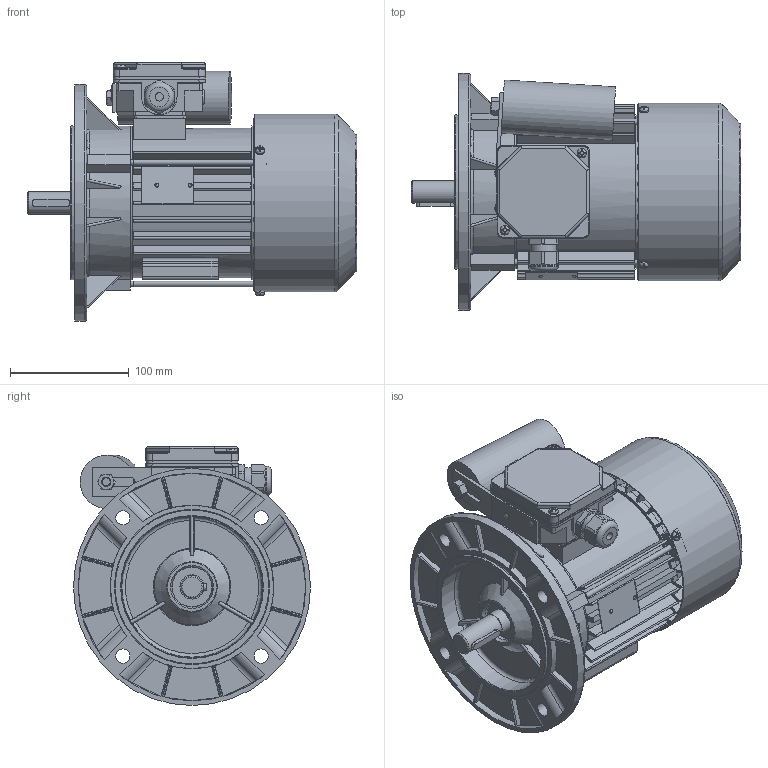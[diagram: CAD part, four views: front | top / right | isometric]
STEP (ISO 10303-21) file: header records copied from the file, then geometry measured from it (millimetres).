
FILE_DESCRIPTION( ( 'Unknown' ), '1' );
FILE_NAME( 'G:/Poczta Tk-1/STP/w.m.80/SEh80/SEKh80-.B.stp', 'Unknown', ( 'K. Szlosek' ), ( 'BESEL S.A.' ), 'PSStep 17.0.49', 'Unknown', ' ' );
FILE_SCHEMA( ( 'AUTOMOTIVE_DESIGN { 1 0 10303 214 1 1 1 1 }' ) );
Length unit declared in the file: millimetre
Products named in the file (33): Assem1; K1-1257 Kadłub S(E,M)h80-A i B; Kondensator zb 25-31,5uF Comar; K3-2964 Osłona przewietrznika Sh80,90; K2-0860 Pokrywka skrzynki zaciskowej; K4-2320 Uszczelka nr 1 Sh71,80; K3-4616 wał standard Sh80-B; K3-6857 Tarcza łożyskowa P S(E,M)h80-B,D; K1-1258  zmiana Tarcza kołnierzowa B5 SKh80-..; Wkręt samogwintujący M4x8; Wpust A6x6x32; K2-1131 Podstawa skrzynki zaciskowej jednofazowa; K4-2820 Uszczelka nr 2 Sh71,80; Wkręt samogwintujący M4x16; K4-0898 Tulejka uszczelniająca; nakrętka M8; Nit 4x12 po skróceniu; Nitokołek A 2x6; K3-4025 Przewietrznik Sg,h80; K4-2999 Uchwyt kondensatora; Dławnica M20x1,5; Tabliczka znamionowa 32x44; Łożysko 6204; Śruba ściągająca E_M5x130
Assembly tree (49 placements, depth 2):
  Assem1
    K1-1257 Kadłub S(E,M)h80-A i B
    Kondensator zb 25-31,5uF Comar
    K3-2964 Osłona przewietrznika Sh80,90
    K2-0860 Pokrywka skrzynki zaciskowej
    K4-2320 Uszczelka nr 1 Sh71,80
    K3-4616 wał standard Sh80-B
    K3-6857 Tarcza łożyskowa P S(E,M)h80-B,D
    K1-1258  zmiana Tarcza kołnierzowa B5 SKh80-..
    Wkręt samogwintujący M4x8  x3
    Wpust A6x6x32
    K2-1131 Podstawa skrzynki zaciskowej jednofazowa
    K4-2820 Uszczelka nr 2 Sh71,80
    Wkręt samogwintujący M4x16  x2
    K4-0898 Tulejka uszczelniająca
    nakrętka M8
    Nit 4x12 po skróceniu  x2
    Nitokołek A 2x6  x2
    K3-4025 Przewietrznik Sg,h80
    K4-2999 Uchwyt kondensatora
    Dławnica M20x1,5
    Tabliczka znamionowa 32x44
    Łożysko 6204  x2
    Łożysko 6204  x2
    Łożysko 6204  x2
    Łożysko 6204  x2
    Łożysko 6204  x2
    Łożysko 6204  x2
    Łożysko 6204  x2
    Łożysko 6204  x2
    Łożysko 6204  x2
    Łożysko 6204  x2
    Śruba ściągająca E_M5x130  x3
Bounding box: 277.8 x 200 x 218.5 mm (x, y, z)
Volume: 1073932 mm3; surface area: 589632.8 mm2
Topology: 49 solids, 65 shells, 2539 faces, 6919 edges, 4499 vertices
Faces by surface type: plane 1250, cylinder 817, torus 180, cone 153, bspline 101, sphere 38
Full cylindrical faces by diameter (mm): 2 x2, 2.4 x2, 3 x1, 3.7 x11, 4 x8, 4.134 x3, 4.3 x2, 4.5 x3, 4.6 x3, 4.8 x4, 5 x7, 5.5 x3, 6 x2, 6.5 x1, 6.647 x1, 7 x1, 8 x10, 10 x2, 12 x4, 18.376 x1, 18.38 x1, 19 x1, 19.3 x1, 19.5 x1, 19.9 x1, 20 x3, 20.3 x2, 20.4 x4, 22.3 x1, 25 x1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
Entity records: 126216 total; most frequent: CARTESIAN_POINT 47806, ORIENTED_EDGE 12360, DIRECTION 11981, EDGE_CURVE 6180, AXIS2_PLACEMENT_3D 4404, VERTEX_POINT 4166, LINE 3173, VECTOR 3173
